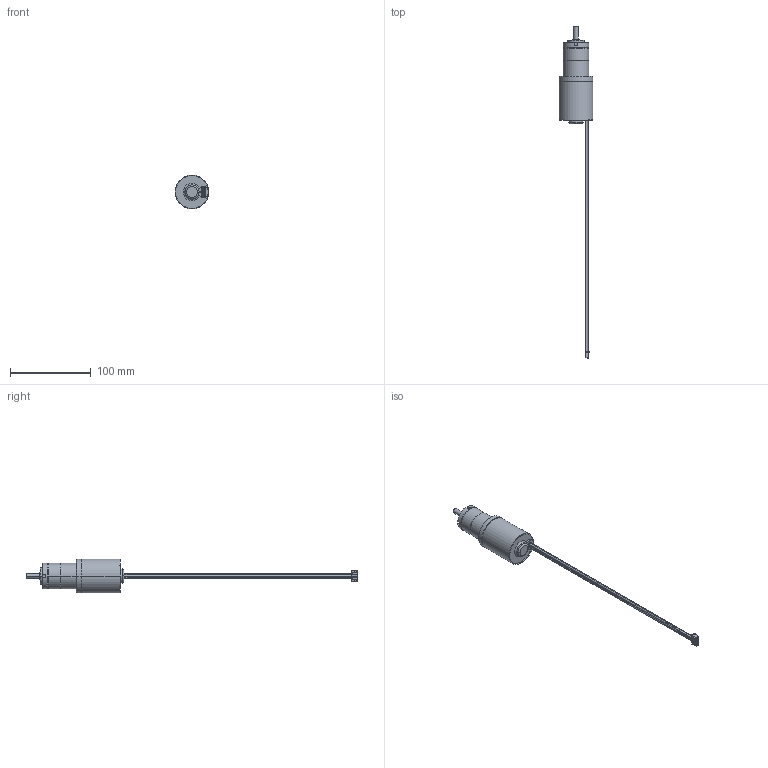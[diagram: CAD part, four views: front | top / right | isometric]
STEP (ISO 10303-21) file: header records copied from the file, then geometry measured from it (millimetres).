
FILE_DESCRIPTION((''),'2;1');
FILE_NAME('BBH_S_ASM','2024-01-16T16:24:11',('Danny.Guo'),(''),'CREO PARAMETRIC BY PTC INC, 2020414','CREO PARAMETRIC BY PTC INC, 2020414','');
FILE_SCHEMA(('CONFIG_CONTROL_DESIGN'));
Length unit declared in the file: millimetre
Products named in the file (3): BBH_S; XHP-5_1; BBH_S_ASM
Assembly tree (2 placements, depth 2):
  BBH_S_ASM
    BBH_S
    XHP-5_1
Bounding box: 42 x 411.53 x 42 mm (x, y, z)
Volume: 114811.1 mm3; surface area: 27673.3 mm2
Topology: 2 solids, 6 shells, 292 faces, 716 edges, 464 vertices
Faces by surface type: plane 165, cylinder 90, cone 34, torus 3
Entity records: 8698 total; most frequent: CARTESIAN_POINT 1554, DIRECTION 1526, ORIENTED_EDGE 1400, EDGE_CURVE 708, AXIS2_PLACEMENT_3D 533, VERTEX_POINT 464, VECTOR 460, LINE 460
